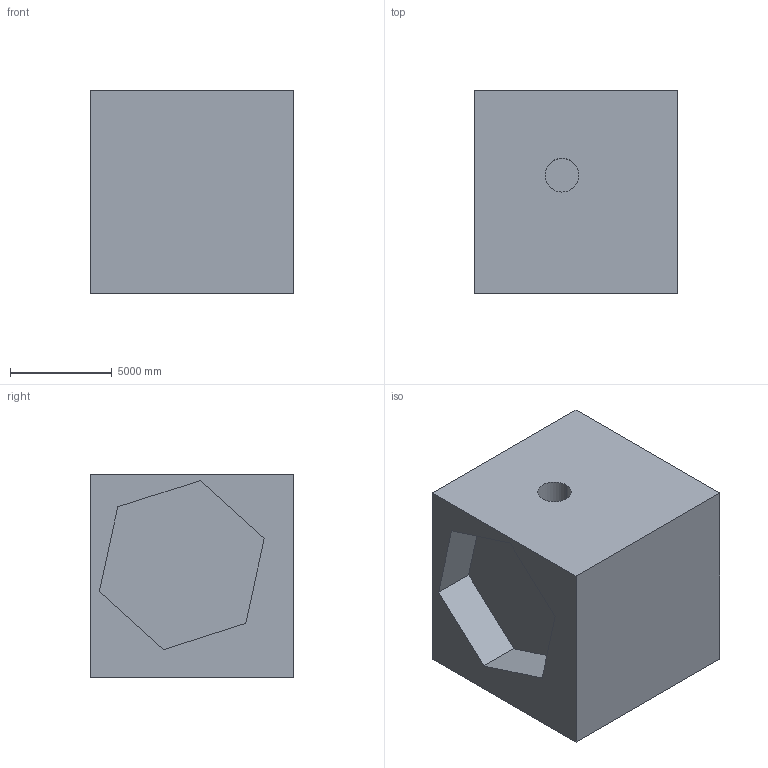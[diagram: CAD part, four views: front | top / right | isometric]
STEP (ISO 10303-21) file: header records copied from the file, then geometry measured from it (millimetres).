
FILE_DESCRIPTION (( 'STEP AP203' ), '1' );
FILE_NAME ('1.STEP', '2022-09-02T13:37:59', ( 'user' ), ( '' ), 'SwSTEP 2.0', 'SolidWorks 2021', '' );
FILE_SCHEMA (( 'CONFIG_CONTROL_DESIGN' ));
Length unit declared in the file: centimetre
Products named in the file (1): 1
Bounding box: 10000 x 10000 x 10000 mm (x, y, z)
Volume: 892843852915.4 mm3; surface area: 674704516.6 mm2
Topology: 1 solids, 1 shells, 16 faces, 36 edges, 24 vertices
Faces by surface type: plane 14, cylinder 2
Entity records: 521 total; most frequent: CARTESIAN_POINT 77, DIRECTION 74, ORIENTED_EDGE 72, EDGE_CURVE 36, VECTOR 32, LINE 32, VERTEX_POINT 24, AXIS2_PLACEMENT_3D 21
